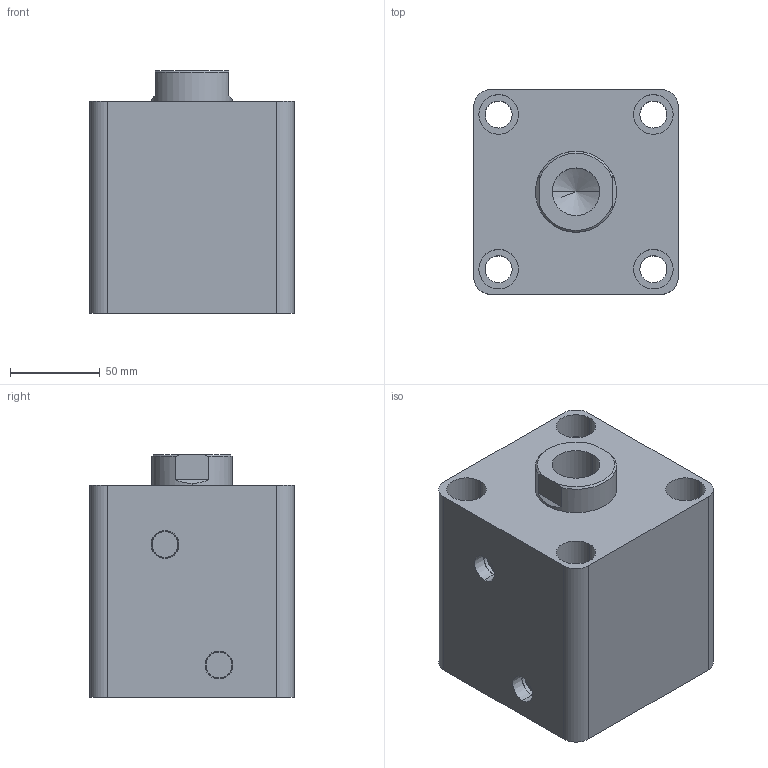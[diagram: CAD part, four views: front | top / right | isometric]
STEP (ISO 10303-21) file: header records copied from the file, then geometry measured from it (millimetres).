
FILE_DESCRIPTION (( 'STEP AP203' ), '1' );
FILE_NAME ('HTB-SD80-40N.STEP', '2019-10-07T08:21:58', ( '微软用户' ), ( '微软中国' ), 'SwSTEP 2.0', 'SolidWorks 2012', '' );
FILE_SCHEMA (( 'CONFIG_CONTROL_DESIGN' ));
Length unit declared in the file: millimetre
Products named in the file (3): HTB-SD80-40N; HTB-SD80-40N活塞杆; HTB-SD80-40掛极
Assembly tree (2 placements, depth 2):
  HTB-SD80-40N
    HTB-SD80-40掛极
    HTB-SD80-40N活塞杆
Bounding box: 114 x 114 x 135 mm (x, y, z)
Volume: 1279898.9 mm3; surface area: 164343 mm2
Topology: 2 solids, 2 shells, 83 faces, 184 edges, 119 vertices
Faces by surface type: cylinder 42, plane 27, cone 8, torus 6
Entity records: 2655 total; most frequent: DIRECTION 456, CARTESIAN_POINT 417, ORIENTED_EDGE 364, AXIS2_PLACEMENT_3D 194, EDGE_CURVE 182, VERTEX_POINT 119, EDGE_LOOP 107, CIRCLE 106
